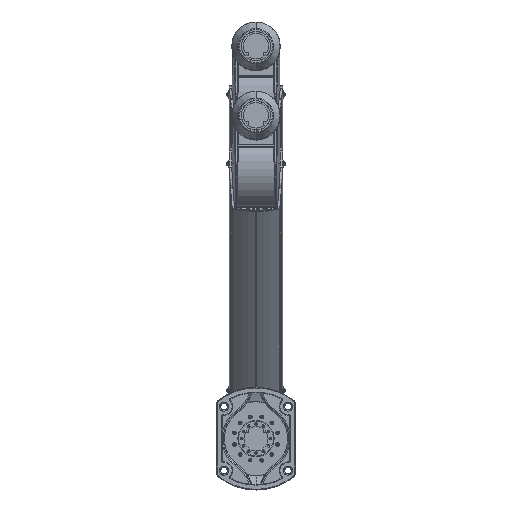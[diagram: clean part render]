
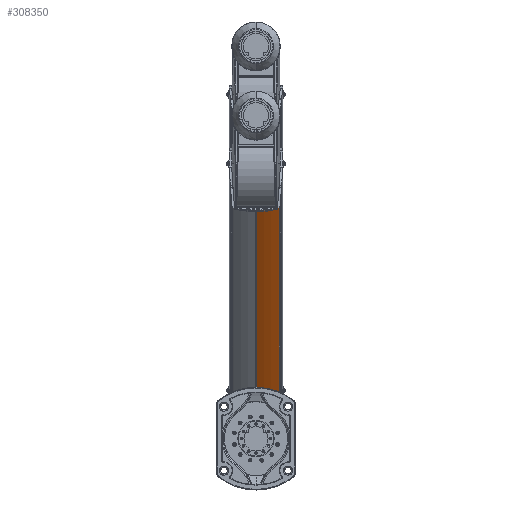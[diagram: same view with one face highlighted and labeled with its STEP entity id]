
A CAD part, front view. The second image highlights one B-rep face of the part: STEP entity #308350.
In plain terms, the highlighted cylindrical face has radius 106 mm (diameter 212 mm), a partial arc.
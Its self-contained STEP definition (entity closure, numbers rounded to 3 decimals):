
#5974 = CARTESIAN_POINT ( 'NONE',  ( 36., -354.561, 359.67 ) ) ;
#10967 = CARTESIAN_POINT ( 'NONE',  ( 0., 1305.642, -1463.778 ) ) ;
#13418 = CARTESIAN_POINT ( 'NONE',  ( 36., 1229.268, -1527.863 ) ) ;
#23535 = CARTESIAN_POINT ( 'NONE',  ( 38.565, -78.049, 31.635 ) ) ;
#26250 = DIRECTION ( 'NONE',  ( 0., -0.643, 0.766 ) ) ;
#29466 = ORIENTED_EDGE ( 'NONE', *, *, #99649, .F. ) ;
#29842 = EDGE_LOOP ( 'NONE', ( #129485, #225533, #29466, #152917, #88878, #207993, #215718, #45431 ) ) ;
#45431 = ORIENTED_EDGE ( 'NONE', *, *, #193343, .T. ) ;
#45797 = CARTESIAN_POINT ( 'NONE',  ( 38.141, -78.288, 31.663 ) ) ;
#55702 = CIRCLE ( 'NONE', #147730, 106. ) ;
#57835 = DIRECTION ( 'NONE',  ( 0., -0.643, 0.766 ) ) ;
#58894 = VERTEX_POINT ( 'NONE', #85741 ) ;
#61900 = CYLINDRICAL_SURFACE ( 'NONE', #129703, 106. ) ;
#72134 = VERTEX_POINT ( 'NONE', #286612 ) ;
#77391 = VERTEX_POINT ( 'NONE', #229594 ) ;
#85741 = CARTESIAN_POINT ( 'NONE',  ( 38.565, -354.483, 361.077 ) ) ;
#87483 = CARTESIAN_POINT ( 'NONE',  ( 36., -353.275, 358.138 ) ) ;
#88878 = ORIENTED_EDGE ( 'NONE', *, *, #286722, .F. ) ;
#99649 = EDGE_CURVE ( 'NONE', #208630, #200095, #248274, .T. ) ;
#99685 = DIRECTION ( 'NONE',  ( 1., 0., 0. ) ) ;
#103821 = CARTESIAN_POINT ( 'NONE',  ( 0., -276.901, 422.224 ) ) ;
#106442 = AXIS2_PLACEMENT_3D ( 'NONE', #103821, #148069, #99685 ) ;
#118508 = CARTESIAN_POINT ( 'NONE',  ( 37.291, -78.76, 31.719 ) ) ;
#121191 = B_SPLINE_CURVE_WITH_KNOTS ( 'NONE', 3,
 ( #275389, #228849, #180321, #204557, #277472 ),
 .UNSPECIFIED., .F., .F.,
 ( 4, 1, 4 ),
 ( 0.215, 0.217, 0.218 ),
 .UNSPECIFIED. ) ;
#127950 = VERTEX_POINT ( 'NONE', #5974 ) ;
#129485 = ORIENTED_EDGE ( 'NONE', *, *, #303870, .F. ) ;
#129703 = AXIS2_PLACEMENT_3D ( 'NONE', #10967, #180785, #179779 ) ;
#147730 = AXIS2_PLACEMENT_3D ( 'NONE', #155741, #249830, #179026 ) ;
#148069 = DIRECTION ( 'NONE',  ( 0., -0.643, 0.766 ) ) ;
#148459 = DIRECTION ( 'NONE',  ( 0., 0.643, -0.766 ) ) ;
#152917 = ORIENTED_EDGE ( 'NONE', *, *, #235232, .T. ) ;
#155741 = CARTESIAN_POINT ( 'NONE',  ( 0., -4.359, 97.421 ) ) ;
#156863 = CARTESIAN_POINT ( 'NONE',  ( 36., 1229.268, -1527.863 ) ) ;
#166871 = EDGE_CURVE ( 'NONE', #72134, #187246, #173369, .T. ) ;
#169999 = VECTOR ( 'NONE', #231815, 1000. ) ;
#173369 = B_SPLINE_CURVE_WITH_KNOTS ( 'NONE', 3,
 ( #23535, #45797, #118508, #243058, #267309 ),
 .UNSPECIFIED., .F., .F.,
 ( 4, 1, 4 ),
 ( 0.472, 0.473, 0.475 ),
 .UNSPECIFIED. ) ;
#179026 = DIRECTION ( 'NONE',  ( -1., 0., 0. ) ) ;
#179779 = DIRECTION ( 'NONE',  ( -1., 0., 0. ) ) ;
#180321 = CARTESIAN_POINT ( 'NONE',  ( 37.288, -354.524, 360.36 ) ) ;
#180785 = DIRECTION ( 'NONE',  ( 0., -0.643, 0.766 ) ) ;
#187246 = VERTEX_POINT ( 'NONE', #310789 ) ;
#193343 = EDGE_CURVE ( 'NONE', #72134, #58894, #253005, .T. ) ;
#196246 = VECTOR ( 'NONE', #148459, 1000. ) ;
#198044 = CARTESIAN_POINT ( 'NONE',  ( 1.5, -1668.095, 1915.294 ) ) ;
#200095 = VERTEX_POINT ( 'NONE', #87483 ) ;
#204557 = CARTESIAN_POINT ( 'NONE',  ( 38.14, -354.497, 360.836 ) ) ;
#207993 = ORIENTED_EDGE ( 'NONE', *, *, #288823, .F. ) ;
#208630 = VERTEX_POINT ( 'NONE', #209323 ) ;
#209323 = CARTESIAN_POINT ( 'NONE',  ( 1.5, -358.094, 354.095 ) ) ;
#211455 = LINE ( 'NONE', #13418, #169999 ) ;
#215718 = ORIENTED_EDGE ( 'NONE', *, *, #166871, .F. ) ;
#223446 = CARTESIAN_POINT ( 'NONE',  ( 38.565, 1230.006, -1527.244 ) ) ;
#224217 = FACE_OUTER_BOUND ( 'NONE', #29842, .T. ) ;
#225533 = ORIENTED_EDGE ( 'NONE', *, *, #247416, .F. ) ;
#228849 = CARTESIAN_POINT ( 'NONE',  ( 36.43, -354.549, 359.898 ) ) ;
#229594 = CARTESIAN_POINT ( 'NONE',  ( 36., -80.733, 33.335 ) ) ;
#231815 = DIRECTION ( 'NONE',  ( 0., -0.643, 0.766 ) ) ;
#235232 = EDGE_CURVE ( 'NONE', #208630, #277668, #306031, .T. ) ;
#243058 = CARTESIAN_POINT ( 'NONE',  ( 36.432, -79.221, 31.775 ) ) ;
#247416 = EDGE_CURVE ( 'NONE', #200095, #127950, #211455, .T. ) ;
#248274 = CIRCLE ( 'NONE', #106442, 106. ) ;
#249830 = DIRECTION ( 'NONE',  ( 0., 0.643, -0.766 ) ) ;
#251935 = LINE ( 'NONE', #156863, #297362 ) ;
#253005 = LINE ( 'NONE', #223446, #264208 ) ;
#256580 = CARTESIAN_POINT ( 'NONE',  ( 1.5, -85.552, 29.292 ) ) ;
#264208 = VECTOR ( 'NONE', #26250, 1000. ) ;
#267309 = CARTESIAN_POINT ( 'NONE',  ( 36., -79.448, 31.803 ) ) ;
#275389 = CARTESIAN_POINT ( 'NONE',  ( 36., -354.561, 359.67 ) ) ;
#277472 = CARTESIAN_POINT ( 'NONE',  ( 38.565, -354.483, 361.077 ) ) ;
#277668 = VERTEX_POINT ( 'NONE', #256580 ) ;
#286612 = CARTESIAN_POINT ( 'NONE',  ( 38.565, -78.049, 31.635 ) ) ;
#286722 = EDGE_CURVE ( 'NONE', #77391, #277668, #55702, .T. ) ;
#288823 = EDGE_CURVE ( 'NONE', #187246, #77391, #251935, .T. ) ;
#297362 = VECTOR ( 'NONE', #57835, 1000. ) ;
#303870 = EDGE_CURVE ( 'NONE', #127950, #58894, #121191, .T. ) ;
#306031 = LINE ( 'NONE', #198044, #196246 ) ;
#308350 = ADVANCED_FACE ( 'NONE', ( #224217 ), #61900, .T. ) ;
#310789 = CARTESIAN_POINT ( 'NONE',  ( 36., -79.448, 31.803 ) ) ;
